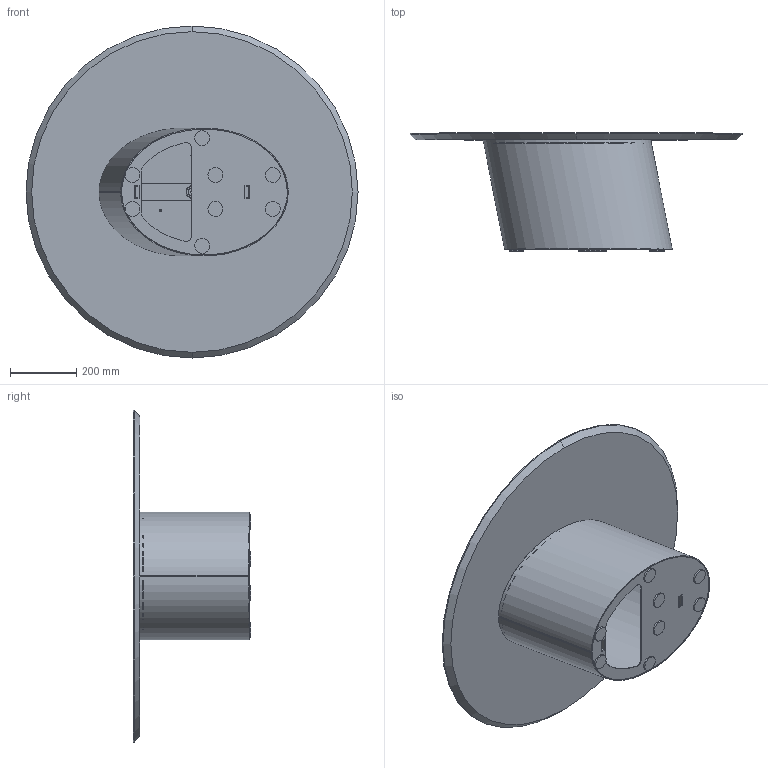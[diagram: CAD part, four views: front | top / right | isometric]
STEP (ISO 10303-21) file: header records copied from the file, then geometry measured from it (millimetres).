
FILE_DESCRIPTION (( 'STEP AP203' ), '1' );
FILE_NAME ('D103W.STEP', '2024-08-07T11:20:15', ( '' ), ( '' ), 'SwSTEP 2.0', 'SolidWorks 2022', '' );
FILE_SCHEMA (( 'CONFIG_CONTROL_DESIGN' ));
Length unit declared in the file: millimetre
Products named in the file (4): D103W; Parte2^Dxxxx-00-DORADO LOW; Parte matrice basamento DORADO LOW H350_Default<A macchina>; W1XCMXX-00-Piani Rotondi legno_D.1000 SP.20cm
Assembly tree (10 placements, depth 2):
  D103W
    Parte matrice basamento DORADO LOW H350_Default<A macchina>
    Parte2^Dxxxx-00-DORADO LOW  x8
    W1XCMXX-00-Piani Rotondi legno_D.1000 SP.20cm
Bounding box: 1000 x 355 x 1000 mm (x, y, z)
Volume: 17193021.1 mm3; surface area: 3060764.8 mm2
Topology: 16 solids, 16 shells, 185 faces, 447 edges, 290 vertices
Faces by surface type: plane 82, cylinder 73, cone 16, bspline 14
Entity records: 8335 total; most frequent: CARTESIAN_POINT 3911, ORIENTED_EDGE 794, DIRECTION 781, EDGE_CURVE 397, AXIS2_PLACEMENT_3D 280, VERTEX_POINT 262, LINE 221, VECTOR 221
